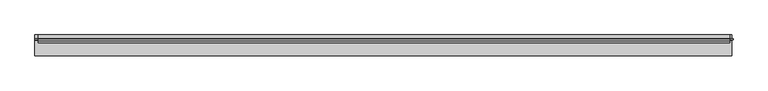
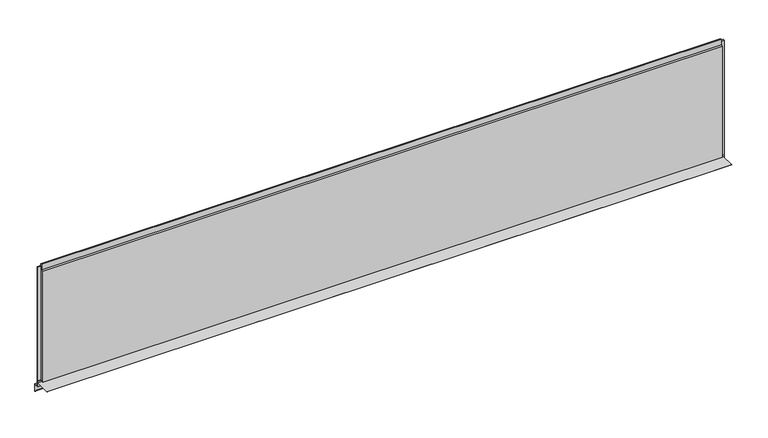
"""IFC4 building model written with IfcOpenShell, lengths in millimetres: plate geometry, Trimo_Qbiss Screen_Normal Panel-HORIZONTAL : HR - B."""

from ifc_helpers import new_model, si_unit, frame, origin, place, context, project, spatial, polyline, outline, extrude, source, transform, mapped, element, save


def plate_399c5634(model_context):
    return source(origin(), model_context, "Body", "SweptSolid", [
        extrude(outline(polyline([(66.7, 14.0835797), (67.5, 14.0835797), (67.5, -23.0), (100.0, -25.8433816), (100.0, -76.0), (87.1509533, -63.1509533), (87.7166388, -62.5852679), (99.2, -74.0686292), (99.2, -26.5764465), (66.7, -23.7330649), (66.7, 1.0), (-32.5, 1.0), (-32.5, 1.8), (66.7, 1.8), (66.7, 14.0835797)])), frame((-2206.25, 0.0, 0.0), z_axis=(1.0, 0.0, 0.0), x_axis=(0.0, 1.0, 0.0)), (0.0, 0.0, 1.0), 4407.5),
        extrude(outline(polyline([(-2187.25, 76.5978162), (-2187.25, 67.8978162), (-2206.25, 67.8978162), (-2206.25, 76.5978162), (-2187.25, 76.5978162)])), frame((0.0, 0.0, -20.0), z_axis=(0.0, 0.0, 1.0), x_axis=(1.0, 0.0, 0.0)), (0.0, 0.0, 1.0), 806.95),
        extrude(outline(polyline([(2191.75, 67.8978162), (2191.75, 76.5978162), (2210.75, 76.5978162), (2210.75, 67.8978162), (2191.75, 67.8978162)])), frame((0.0, 0.0, -20.0), z_axis=(0.0, 0.0, 1.0), x_axis=(1.0, 0.0, 0.0)), (0.0, 0.0, 1.0), 806.95),
        extrude(outline(polyline([(2188.75, 76.0), (2188.75, 71.0), (-2184.25, 71.0), (-2184.25, 76.0), (2188.75, 76.0)])), frame((0.0, 0.0, 765.95), z_axis=(0.0, 0.0, 1.0), x_axis=(1.0, 0.0, 0.0)), (0.0, 0.0, 1.0), 21.0),
        extrude(outline(polyline([(71.0, 764.95), (100.0, 764.95), (100.0, 0.0), (72.0, 0.0), (72.0, 15.5), (62.0, 15.5), (62.0, 7.0), (50.0, 7.0), (50.0, 764.95), (63.0, 764.95), (63.0, 802.45), (71.0, 802.45), (71.0, 764.95)])), frame((-2184.25, 0.0, 0.0), z_axis=(1.0, 0.0, 0.0), x_axis=(0.0, 1.0, 0.0)), (0.0, 0.0, 1.0), 4373.0),
    ])


if __name__ == "__main__":
    model = new_model("IFC4")
    model_context = context("Model", 3, world=origin())
    ifc_project = project(units=[si_unit("LENGTHUNIT", "METRE", prefix="MILLI")], contexts=[model_context])
    site = spatial("IfcSite", under=ifc_project)
    building = spatial("IfcBuilding", under=site)
    placement = place(None, origin())
    plate_shape = plate_399c5634(model_context)
    element("IfcPlate", 1, ObjectType="Trimo_Qbiss Screen_Normal Panel-HORIZONTAL : HR - B", at=placement, inside=building, context=model_context, shape_type="MappedRepresentation", body=[
        mapped(plate_shape, transform((0.0, 0.0, 0.0), x_axis=(1.0, 0.0, 0.0), y_axis=(0.0, 1.0, 0.0), z_axis=(0.0, 0.0, 1.0))),
    ])
    save(model, "model.ifc")
